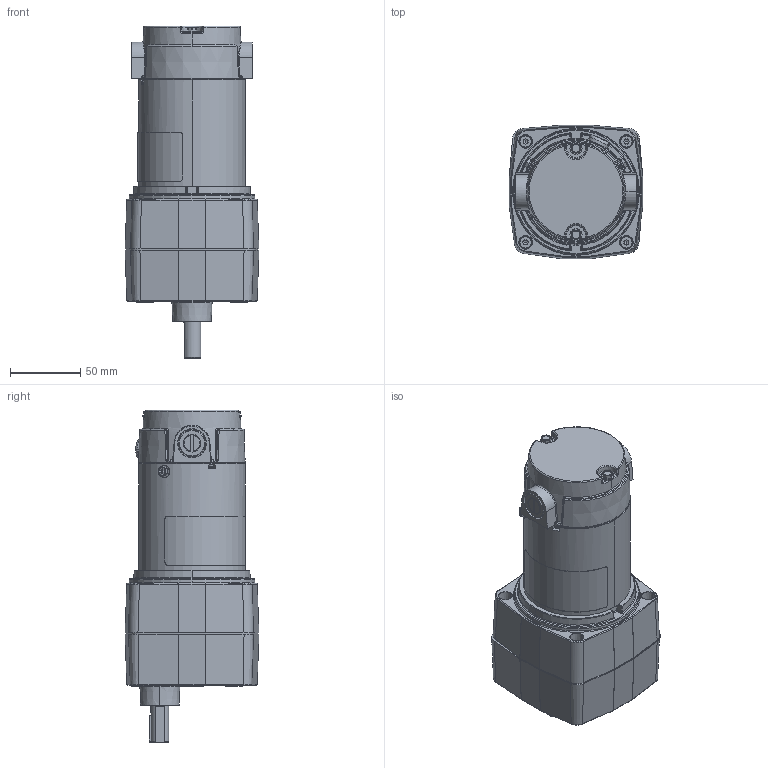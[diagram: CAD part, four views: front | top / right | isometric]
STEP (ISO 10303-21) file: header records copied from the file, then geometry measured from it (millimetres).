
FILE_DESCRIPTION (( 'STEP AP203' ), '1' );
FILE_NAME ('611-0127-M1115000_RevA.STEP', '2018-02-07T05:26:09', ( '' ), ( '' ), 'SwSTEP 2.0', 'SolidWorks 2015', '' );
FILE_SCHEMA (( 'CONFIG_CONTROL_DESIGN' ));
Length unit declared in the file: inch
Products named in the file (1): 611-0127-M1115000_RevA
Bounding box: 95.25 x 95.25 x 236.27 mm (x, y, z)
Volume: 474099.2 mm3; surface area: 195668.2 mm2
Topology: 26 solids, 26 shells, 2794 faces, 6555 edges, 3884 vertices
Faces by surface type: bspline 628, plane 601, cylinder 589, cone 438, torus 374, sphere 164
Entity records: 99502 total; most frequent: CARTESIAN_POINT 39334, ORIENTED_EDGE 13020, DIRECTION 12088, EDGE_CURVE 6510, AXIS2_PLACEMENT_3D 5030, VERTEX_POINT 3884, EDGE_LOOP 2970, CIRCLE 2863
